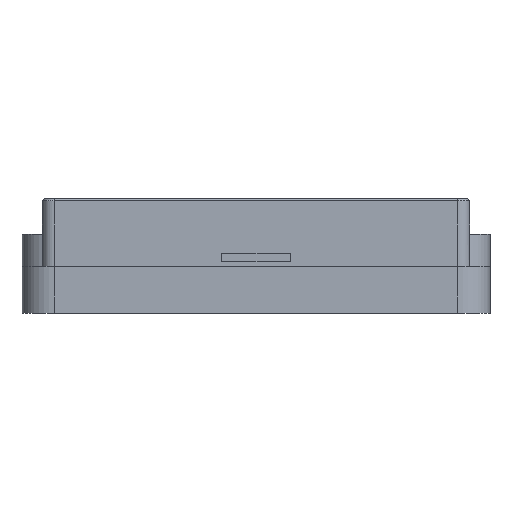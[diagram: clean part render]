
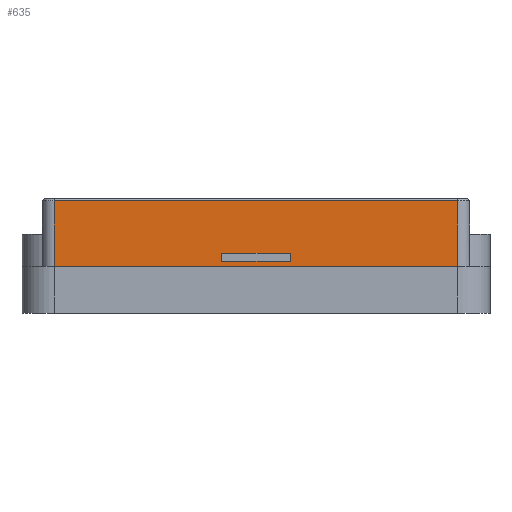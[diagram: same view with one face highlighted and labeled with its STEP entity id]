
A CAD part, left-side view. The second image highlights one B-rep face of the part: STEP entity #635.
In plain terms, the highlighted free-form (B-spline) face has degree [1, 1] with [2, 2] control points.
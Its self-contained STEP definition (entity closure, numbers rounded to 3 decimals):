
#134 = VERTEX_POINT('',#135);
#135 = CARTESIAN_POINT('',(-26.5,-25.,5.8));
#143 = EDGE_CURVE('',#134,#144,#146,.T.);
#144 = VERTEX_POINT('',#145);
#145 = CARTESIAN_POINT('',(-26.5,25.,5.8));
#146 = B_SPLINE_CURVE_WITH_KNOTS('',1,(#147,#148),.UNSPECIFIED.,.F.,.F.,
  (2,2),(1.5,51.5),.PIECEWISE_BEZIER_KNOTS.);
#147 = CARTESIAN_POINT('',(-26.5,-25.,5.8));
#148 = CARTESIAN_POINT('',(-26.5,25.,5.8));
#377 = EDGE_CURVE('',#134,#378,#380,.T.);
#378 = VERTEX_POINT('',#379);
#379 = CARTESIAN_POINT('',(-26.5,-25.,13.95));
#380 = B_SPLINE_CURVE_WITH_KNOTS('',1,(#381,#382),.UNSPECIFIED.,.F.,.F.,
  (2,2),(0.,8.15),.PIECEWISE_BEZIER_KNOTS.);
#381 = CARTESIAN_POINT('',(-26.5,-25.,5.8));
#382 = CARTESIAN_POINT('',(-26.5,-25.,13.95));
#614 = EDGE_CURVE('',#144,#615,#617,.T.);
#615 = VERTEX_POINT('',#616);
#616 = CARTESIAN_POINT('',(-26.5,25.,13.95));
#617 = B_SPLINE_CURVE_WITH_KNOTS('',1,(#618,#619),.UNSPECIFIED.,.F.,.F.,
  (2,2),(0.,8.15),.PIECEWISE_BEZIER_KNOTS.);
#618 = CARTESIAN_POINT('',(-26.5,25.,5.8));
#619 = CARTESIAN_POINT('',(-26.5,25.,13.95));
#635 = ADVANCED_FACE('',(#636,#646),#676,.F.);
#636 = FACE_BOUND('',#637,.F.);
#637 = EDGE_LOOP('',(#638,#639,#640,#641));
#638 = ORIENTED_EDGE('',*,*,#377,.F.);
#639 = ORIENTED_EDGE('',*,*,#143,.T.);
#640 = ORIENTED_EDGE('',*,*,#614,.T.);
#641 = ORIENTED_EDGE('',*,*,#642,.F.);
#642 = EDGE_CURVE('',#378,#615,#643,.T.);
#643 = B_SPLINE_CURVE_WITH_KNOTS('',1,(#644,#645),.UNSPECIFIED.,.F.,.F.,
  (2,2),(-0.,50.),.PIECEWISE_BEZIER_KNOTS.);
#644 = CARTESIAN_POINT('',(-26.5,-25.,13.95));
#645 = CARTESIAN_POINT('',(-26.5,25.,13.95));
#646 = FACE_BOUND('',#647,.F.);
#647 = EDGE_LOOP('',(#648,#657,#664,#671));
#648 = ORIENTED_EDGE('',*,*,#649,.T.);
#649 = EDGE_CURVE('',#650,#652,#654,.T.);
#650 = VERTEX_POINT('',#651);
#651 = CARTESIAN_POINT('',(-26.5,4.25,6.45));
#652 = VERTEX_POINT('',#653);
#653 = CARTESIAN_POINT('',(-26.5,-4.25,6.45));
#654 = B_SPLINE_CURVE_WITH_KNOTS('',1,(#655,#656),.UNSPECIFIED.,.F.,.F.,
  (2,2),(-19.625,-11.125),.PIECEWISE_BEZIER_KNOTS.);
#655 = CARTESIAN_POINT('',(-26.5,4.25,6.45));
#656 = CARTESIAN_POINT('',(-26.5,-4.25,6.45));
#657 = ORIENTED_EDGE('',*,*,#658,.T.);
#658 = EDGE_CURVE('',#652,#659,#661,.T.);
#659 = VERTEX_POINT('',#660);
#660 = CARTESIAN_POINT('',(-26.5,-4.25,7.45));
#661 = B_SPLINE_CURVE_WITH_KNOTS('',1,(#662,#663),.UNSPECIFIED.,.F.,.F.,
  (2,2),(0.325,1.325),.PIECEWISE_BEZIER_KNOTS.);
#662 = CARTESIAN_POINT('',(-26.5,-4.25,6.45));
#663 = CARTESIAN_POINT('',(-26.5,-4.25,7.45));
#664 = ORIENTED_EDGE('',*,*,#665,.F.);
#665 = EDGE_CURVE('',#666,#659,#668,.T.);
#666 = VERTEX_POINT('',#667);
#667 = CARTESIAN_POINT('',(-26.5,4.25,7.45));
#668 = B_SPLINE_CURVE_WITH_KNOTS('',1,(#669,#670),.UNSPECIFIED.,.F.,.F.,
  (2,2),(-19.625,-11.125),.PIECEWISE_BEZIER_KNOTS.);
#669 = CARTESIAN_POINT('',(-26.5,4.25,7.45));
#670 = CARTESIAN_POINT('',(-26.5,-4.25,7.45));
#671 = ORIENTED_EDGE('',*,*,#672,.F.);
#672 = EDGE_CURVE('',#650,#666,#673,.T.);
#673 = B_SPLINE_CURVE_WITH_KNOTS('',1,(#674,#675),.UNSPECIFIED.,.F.,.F.,
  (2,2),(0.325,1.325),.PIECEWISE_BEZIER_KNOTS.);
#674 = CARTESIAN_POINT('',(-26.5,4.25,6.45));
#675 = CARTESIAN_POINT('',(-26.5,4.25,7.45));
#676 = B_SPLINE_SURFACE_WITH_KNOTS('',1,1,(
    (#677,#678)
    ,(#679,#680
    )),.UNSPECIFIED.,.F.,.F.,.F.,(2,2),(2,2),(0.,8.15),(-51.5,-1.5),
  .PIECEWISE_BEZIER_KNOTS.);
#677 = CARTESIAN_POINT('',(-26.5,25.,5.8));
#678 = CARTESIAN_POINT('',(-26.5,-25.,5.8));
#679 = CARTESIAN_POINT('',(-26.5,25.,13.95));
#680 = CARTESIAN_POINT('',(-26.5,-25.,13.95));
